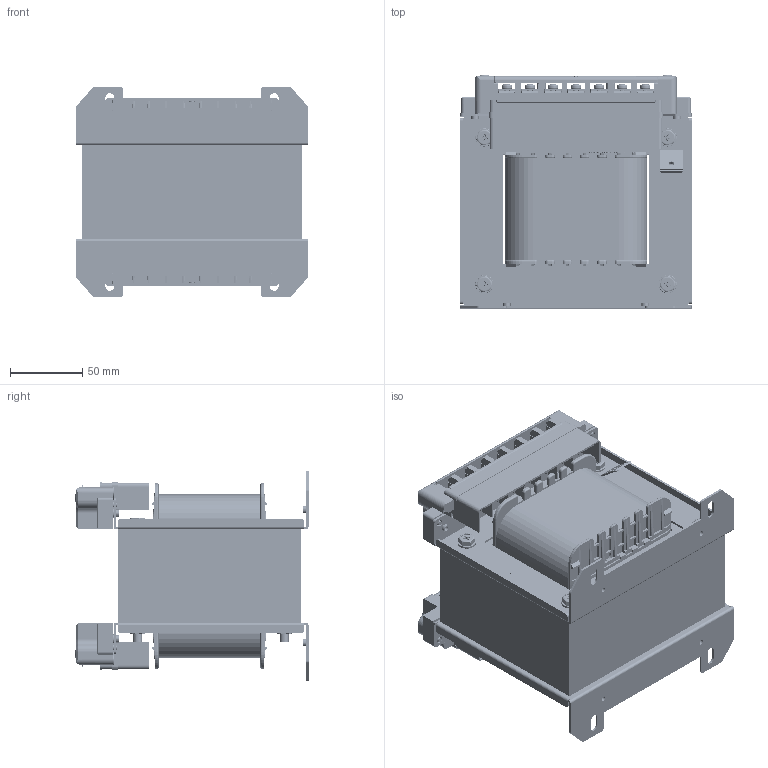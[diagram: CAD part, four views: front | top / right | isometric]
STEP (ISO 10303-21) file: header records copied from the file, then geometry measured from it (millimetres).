
FILE_DESCRIPTION (( 'STEP AP214' ), '1' );
FILE_NAME ('UL TRANS Ass''Y_1P-500VA_rev.0.STEP', '2018-10-17T00:18:09', ( 'Registered User' ), ( 'Microsoft Corporation' ), 'SwSTEP 2.0', 'SolidWorks 2018', '' );
FILE_SCHEMA (( 'AUTOMOTIVE_DESIGN' ));
Length unit declared in the file: millimetre
Products named in the file (17): UL TRANS Ass''Y_1P-500VA_rev.0; UL TRANS 1P 500VA BARRIER_P00_180115; 152 窜磊措-巢东屈 ASS''Y_P01; M4x9(12x12); 餌陝WASHER(14x14); M4x10; 152 TERMINAL COVER; 152 欽濠渠 寰瞪 COVER; 152 窜磊措 TERMINAL(吵东屈)_P01; 152欽濠渠-BODY; 16mm 立瘤窜磊 陛屈 荐沥 八配 扒_170828; M6-STS-FLANGE NUT_P00; WBS)6x80_P00; TGI-152CV_R01_遢醴幗 152; TRANS 750VA COIL; TRANS 750VA EI CORE_P00; TRANS BOBBIN(152.4-65)_P02_P00
Assembly tree (39 placements, depth 4):
  UL TRANS Ass''Y_1P-500VA_rev.0
    TRANS BOBBIN(152.4-65)_P02_P00
    TRANS 750VA EI CORE_P00
    TRANS 750VA COIL
    TGI-152CV_R01_遢醴幗 152  x2
    WBS)6x80_P00  x4
    M6-STS-FLANGE NUT_P00  x4
    16mm 立瘤窜磊 陛屈 荐沥 八配 扒_170828
    152 窜磊措-巢东屈 ASS''Y_P01  x2
      152欽濠渠-BODY
      152 窜磊措 TERMINAL(吵东屈)_P01
      152 欽濠渠 寰瞪 COVER
      152 TERMINAL COVER
      M4x9(12x12)
        M4x10
        餌陝WASHER(14x14)
    UL TRANS 1P 500VA BARRIER_P00_180115  x4
Bounding box: 160.2 x 161.6 x 146 mm (x, y, z)
Volume: 1759200.5 mm3; surface area: 487999.2 mm2
Topology: 66 solids, 66 shells, 11311 faces, 30612 edges, 19702 vertices
Faces by surface type: plane 6845, cylinder 3040, bspline 910, torus 266, cone 172, sphere 78
Entity records: 156948 total; most frequent: CARTESIAN_POINT 45553, ORIENTED_EDGE 24378, DIRECTION 20808, EDGE_CURVE 12189, VECTOR 9332, LINE 9332, VERTEX_POINT 7860, AXIS2_PLACEMENT_3D 5738
